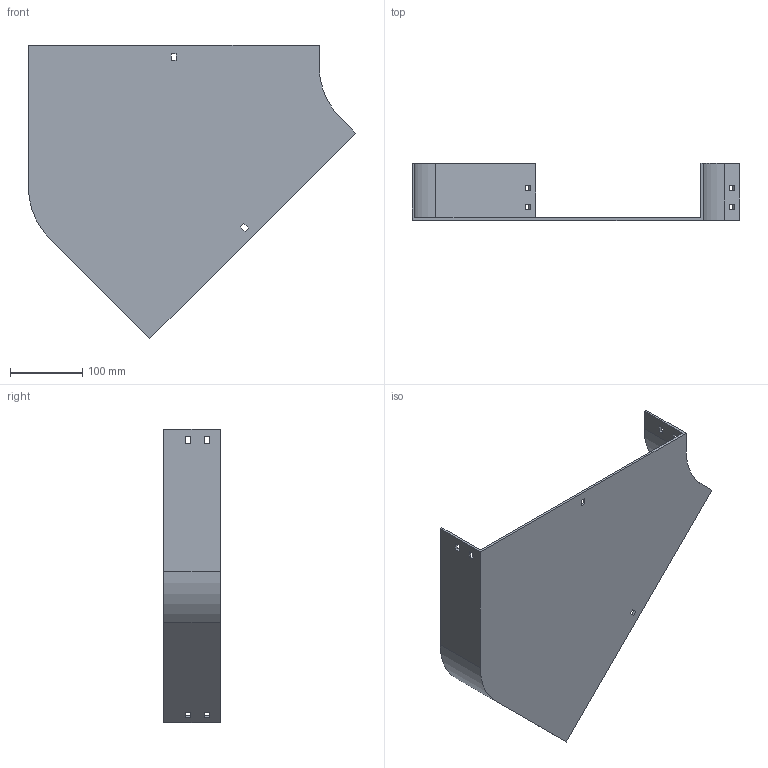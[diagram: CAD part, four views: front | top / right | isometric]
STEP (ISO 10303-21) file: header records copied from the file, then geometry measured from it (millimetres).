
FILE_DESCRIPTION (( 'STEP AP214' ), '1' );
FILE_NAME ('11F1C400.step', '2025-02-21T12:56:11', ( '' ), ( '' ), 'SwSTEP 2.0', 'SolidWorks 2023', '' );
FILE_SCHEMA (( 'AUTOMOTIVE_DESIGN' ));
Length unit declared in the file: millimetre
Products named in the file (1): 11F1C400
Bounding box: 454.5 x 79 x 407.6 mm (x, y, z)
Volume: 597890.8 mm3; surface area: 348847 mm2
Topology: 1 solids, 1 shells, 58 faces, 168 edges, 112 vertices
Faces by surface type: plane 54, cylinder 4
Entity records: 1943 total; most frequent: CARTESIAN_POINT 339, ORIENTED_EDGE 336, DIRECTION 294, EDGE_CURVE 168, LINE 160, VECTOR 160, VERTEX_POINT 112, EDGE_LOOP 78
